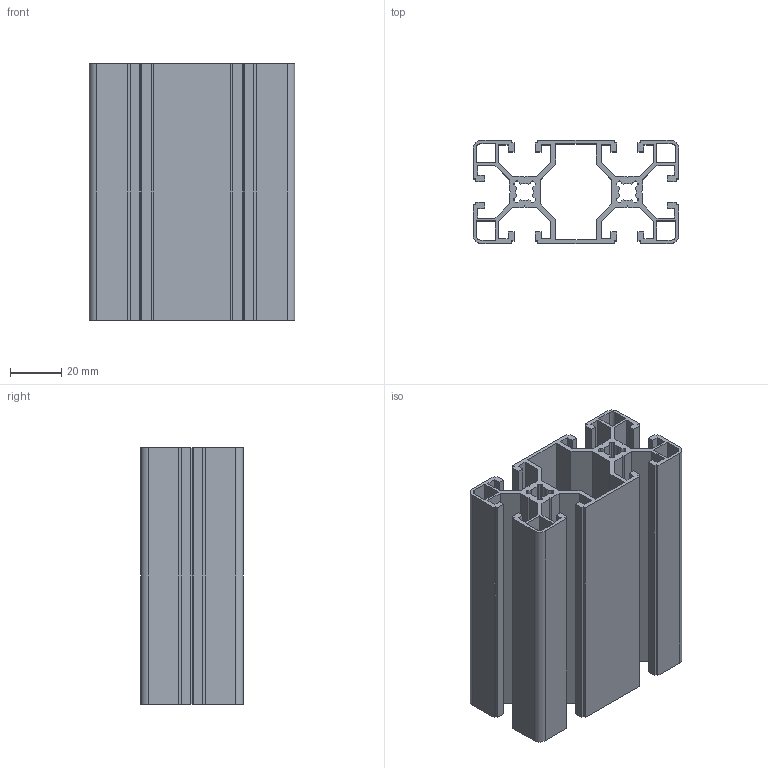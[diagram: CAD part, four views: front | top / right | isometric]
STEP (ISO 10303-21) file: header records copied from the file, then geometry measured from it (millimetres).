
FILE_DESCRIPTION (( 'STEP AP214' ), '1' );
FILE_NAME ('40õ80L.STEP', '2015-03-03T12:22:48', ( 'Matveev' ), ( '' ), 'SwSTEP 2.0', 'SolidWorks 2014', '' );
FILE_SCHEMA (( 'AUTOMOTIVE_DESIGN' ));
Length unit declared in the file: millimetre
Products named in the file (1): 40õ80L
Bounding box: 80 x 40 x 100 mm (x, y, z)
Volume: 73683.3 mm3; surface area: 89738.7 mm2
Topology: 1 solids, 1 shells, 222 faces, 660 edges, 440 vertices
Faces by surface type: plane 184, cylinder 38
Entity records: 7422 total; most frequent: CARTESIAN_POINT 1323, ORIENTED_EDGE 1320, DIRECTION 1182, EDGE_CURVE 660, VECTOR 584, LINE 584, VERTEX_POINT 440, AXIS2_PLACEMENT_3D 299
